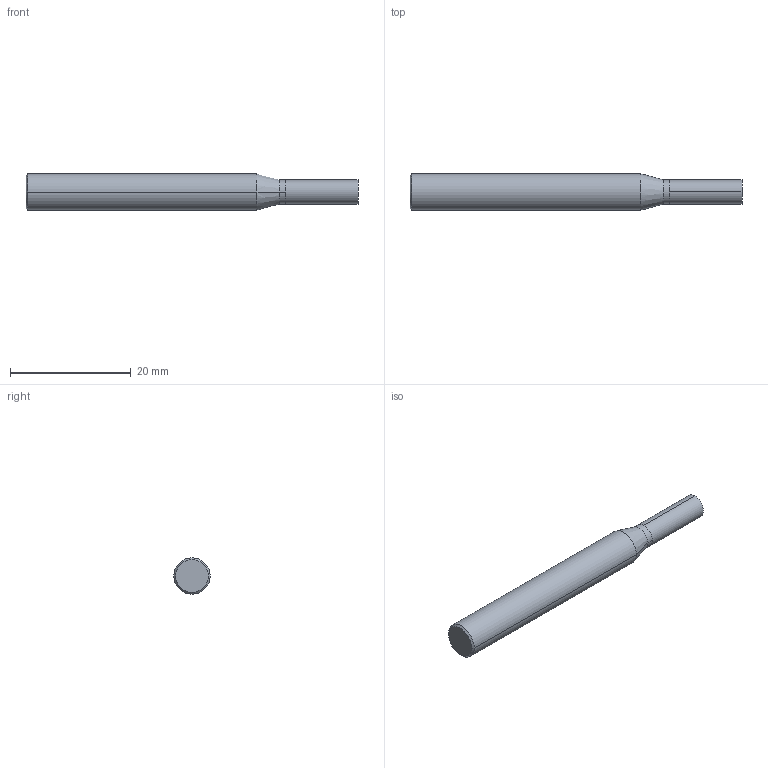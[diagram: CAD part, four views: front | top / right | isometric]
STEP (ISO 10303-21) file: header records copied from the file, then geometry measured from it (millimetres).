
FILE_DESCRIPTION (( 'STEP AP214' ), '1' );
FILE_NAME ('E599940661.STEP', '2021-02-19T08:58:57', ( 'USER' ), ( 'Hewlett-Packard Company' ), 'SwSTEP 2.0', 'SolidWorks 2014', '' );
FILE_SCHEMA (( 'AUTOMOTIVE_DESIGN' ));
Length unit declared in the file: millimetre
Products named in the file (1): E599940661
Bounding box: 55 x 6 x 6 mm (x, y, z)
Volume: 1318.8 mm3; surface area: 1007.9 mm2
Topology: 2 solids, 2 shells, 14 faces, 24 edges, 14 vertices
Faces by surface type: cylinder 6, plane 4, cone 4
Entity records: 421 total; most frequent: DIRECTION 68, CARTESIAN_POINT 53, ORIENTED_EDGE 48, AXIS2_PLACEMENT_3D 29, EDGE_CURVE 24, VERTEX_POINT 14, CIRCLE 14, ADVANCED_FACE 14
